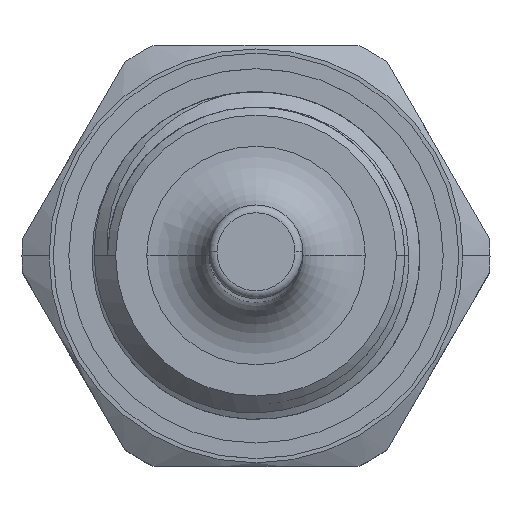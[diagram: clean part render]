
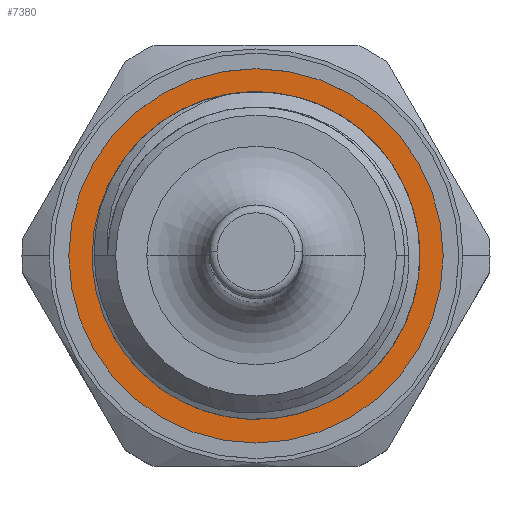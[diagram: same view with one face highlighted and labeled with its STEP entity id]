
A CAD part, top view. The second image highlights one B-rep face of the part: STEP entity #7380.
In plain terms, the highlighted planar face has unit normal (0, 0, 1).
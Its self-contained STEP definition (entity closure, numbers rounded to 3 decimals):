
#221 = VERTEX_POINT ( 'NONE', #2703 ) ;
#256 = DIRECTION ( 'NONE',  ( 0., 0., 1. ) ) ;
#341 = DIRECTION ( 'NONE',  ( 1., 0., 0. ) ) ;
#549 = AXIS2_PLACEMENT_3D ( 'NONE', #3144, #4421, #7178 ) ;
#816 = PLANE ( 'NONE',  #7134 ) ;
#1168 = EDGE_CURVE ( 'NONE', #6477, #221, #6167, .T. ) ;
#1345 = CARTESIAN_POINT ( 'NONE',  ( -12., 0., -15. ) ) ;
#1427 = EDGE_LOOP ( 'NONE', ( #4593, #5428 ) ) ;
#2476 = ORIENTED_EDGE ( 'NONE', *, *, #5670, .T. ) ;
#2609 = CARTESIAN_POINT ( 'NONE',  ( 0., 0., -15. ) ) ;
#2703 = CARTESIAN_POINT ( 'NONE',  ( -9.25, 0., -15. ) ) ;
#2987 = AXIS2_PLACEMENT_3D ( 'NONE', #3239, #5533, #341 ) ;
#3144 = CARTESIAN_POINT ( 'NONE',  ( 0., 0., -15. ) ) ;
#3239 = CARTESIAN_POINT ( 'NONE',  ( 0., 0., -15. ) ) ;
#3259 = CARTESIAN_POINT ( 'NONE',  ( 0., 0., -15. ) ) ;
#3638 = CIRCLE ( 'NONE', #4594, 9.25 ) ;
#3691 = EDGE_CURVE ( 'NONE', #221, #6477, #3638, .T. ) ;
#4181 = CARTESIAN_POINT ( 'NONE',  ( 0., 0., -15. ) ) ;
#4317 = FACE_OUTER_BOUND ( 'NONE', #5954, .T. ) ;
#4398 = FACE_BOUND ( 'NONE', #1427, .T. ) ;
#4421 = DIRECTION ( 'NONE',  ( 0., 0., 1. ) ) ;
#4462 = VERTEX_POINT ( 'NONE', #1345 ) ;
#4542 = ORIENTED_EDGE ( 'NONE', *, *, #5210, .T. ) ;
#4593 = ORIENTED_EDGE ( 'NONE', *, *, #3691, .F. ) ;
#4594 = AXIS2_PLACEMENT_3D ( 'NONE', #2609, #6712, #6075 ) ;
#4786 = CARTESIAN_POINT ( 'NONE',  ( 9.25, 0., -15. ) ) ;
#5147 = CIRCLE ( 'NONE', #2987, 12. ) ;
#5210 = EDGE_CURVE ( 'NONE', #4462, #7009, #5147, .T. ) ;
#5428 = ORIENTED_EDGE ( 'NONE', *, *, #1168, .F. ) ;
#5479 = DIRECTION ( 'NONE',  ( 1., 0., 0. ) ) ;
#5533 = DIRECTION ( 'NONE',  ( 0., 0., 1. ) ) ;
#5670 = EDGE_CURVE ( 'NONE', #7009, #4462, #6357, .T. ) ;
#5954 = EDGE_LOOP ( 'NONE', ( #2476, #4542 ) ) ;
#6075 = DIRECTION ( 'NONE',  ( 1., 0., 0. ) ) ;
#6167 = CIRCLE ( 'NONE', #7384, 9.25 ) ;
#6357 = CIRCLE ( 'NONE', #549, 12. ) ;
#6405 = DIRECTION ( 'NONE',  ( 1., 0., 0. ) ) ;
#6477 = VERTEX_POINT ( 'NONE', #4786 ) ;
#6559 = DIRECTION ( 'NONE',  ( 0., 0., 1. ) ) ;
#6712 = DIRECTION ( 'NONE',  ( 0., 0., 1. ) ) ;
#7009 = VERTEX_POINT ( 'NONE', #7417 ) ;
#7134 = AXIS2_PLACEMENT_3D ( 'NONE', #3259, #256, #5479 ) ;
#7178 = DIRECTION ( 'NONE',  ( 1., 0., 0. ) ) ;
#7380 = ADVANCED_FACE ( 'NONE', ( #4398, #4317 ), #816, .T. ) ;
#7384 = AXIS2_PLACEMENT_3D ( 'NONE', #4181, #6559, #6405 ) ;
#7417 = CARTESIAN_POINT ( 'NONE',  ( 12., 0., -15. ) ) ;
